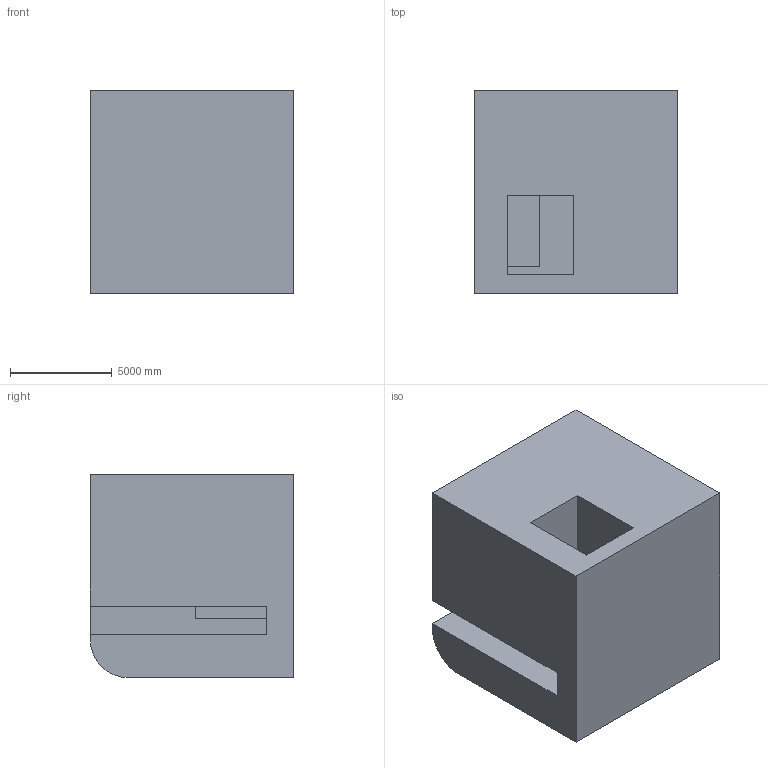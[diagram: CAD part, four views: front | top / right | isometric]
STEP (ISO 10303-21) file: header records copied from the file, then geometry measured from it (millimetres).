
FILE_DESCRIPTION (( 'STEP AP203' ), '1' );
FILE_NAME ('284.STEP', '2022-07-28T14:12:24', ( 'user' ), ( '' ), 'SwSTEP 2.0', 'SolidWorks 2021', '' );
FILE_SCHEMA (( 'CONFIG_CONTROL_DESIGN' ));
Length unit declared in the file: centimetre
Products named in the file (1): 284
Bounding box: 10000 x 10000 x 10000 mm (x, y, z)
Volume: 866785828352.2 mm3; surface area: 730697736.1 mm2
Topology: 1 solids, 1 shells, 16 faces, 45 edges, 30 vertices
Faces by surface type: plane 15, cylinder 1
Entity records: 592 total; most frequent: CARTESIAN_POINT 92, ORIENTED_EDGE 90, DIRECTION 81, EDGE_CURVE 45, VECTOR 43, LINE 43, VERTEX_POINT 30, AXIS2_PLACEMENT_3D 19
